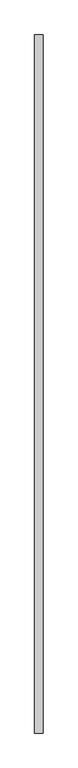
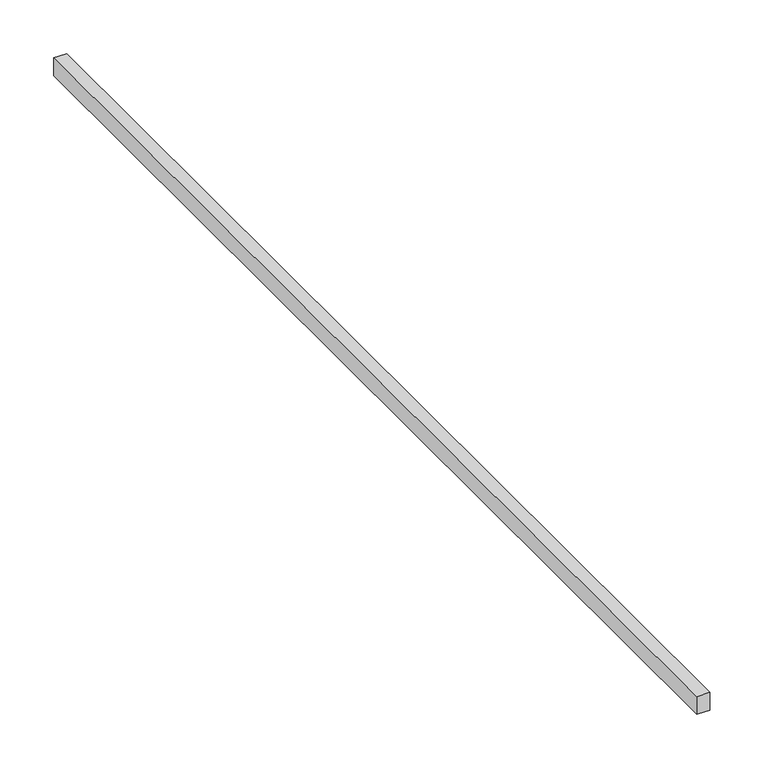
"""IFC4 building model written with IfcOpenShell, lengths in millimetres: light fixture geometry, OWAlight LED Track : 14.3x1200x38 OWAlight 3."""

from ifc_helpers import new_model, si_unit, frame, origin, place, context, project, spatial, polyline, outline, extrude, source, transform, mapped, element, save


def light_fixture_2ade7a22(model_context):
    return source(origin(), model_context, "Body", "SweptSolid", [
        extrude(outline(polyline([(7.15, 600.0), (7.15, -600.0), (-7.15, -600.0), (-7.15, 600.0), (7.15, 600.0)])), frame((0.0, 0.0, 4000.0), z_axis=(0.0, 0.0, 1.0), x_axis=(1.0, 0.0, 0.0)), (0.0, 0.0, 1.0), 20.0),
    ])


if __name__ == "__main__":
    model = new_model("IFC4")
    model_context = context("Model", 3, world=origin())
    ifc_project = project(units=[si_unit("LENGTHUNIT", "METRE", prefix="MILLI")], contexts=[model_context])
    site = spatial("IfcSite", under=ifc_project)
    building = spatial("IfcBuilding", under=site)
    placement = place(None, origin())
    light_fixture_shape = light_fixture_2ade7a22(model_context)
    element("IfcLightFixture", 1, ObjectType="OWAlight LED Track : 14.3x1200x38 OWAlight 3", at=placement, inside=building, context=model_context, shape_type="MappedRepresentation", body=[
        mapped(light_fixture_shape, transform((0.0, 0.0, 0.0), x_axis=(1.0, 0.0, 0.0), y_axis=(0.0, 1.0, 0.0), z_axis=(0.0, 0.0, 1.0))),
    ])
    save(model, "model.ifc")
